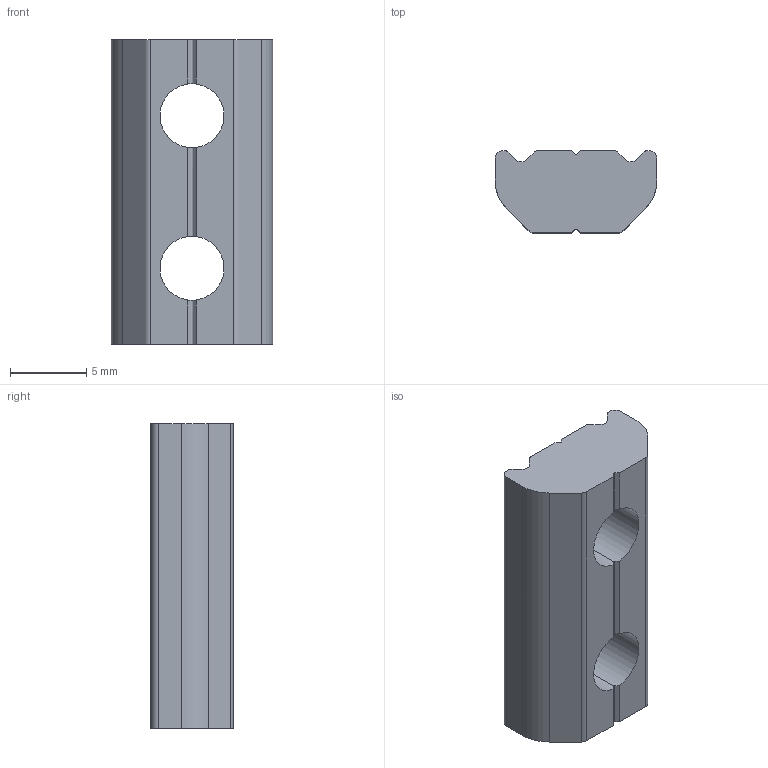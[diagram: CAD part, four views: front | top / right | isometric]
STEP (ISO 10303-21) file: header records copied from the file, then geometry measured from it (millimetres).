
FILE_DESCRIPTION (( 'STEP AP214' ), '1' );
FILE_NAME ('PTN-M5P10.STEP', '2019-10-30T02:08:04', ( '微软用户' ), ( '微软中国' ), 'SwSTEP 2.0', 'SolidWorks 2016', '' );
FILE_SCHEMA (( 'AUTOMOTIVE_DESIGN' ));
Length unit declared in the file: millimetre
Products named in the file (1): PTN-M5P10
Bounding box: 10.6 x 5.4 x 20 mm (x, y, z)
Volume: 839.6 mm3; surface area: 782.5 mm2
Topology: 1 solids, 1 shells, 50 faces, 156 edges, 104 vertices
Faces by surface type: plane 28, cylinder 22
Entity records: 1890 total; most frequent: CARTESIAN_POINT 503, ORIENTED_EDGE 312, DIRECTION 262, EDGE_CURVE 156, VERTEX_POINT 104, LINE 88, VECTOR 88, AXIS2_PLACEMENT_3D 87
